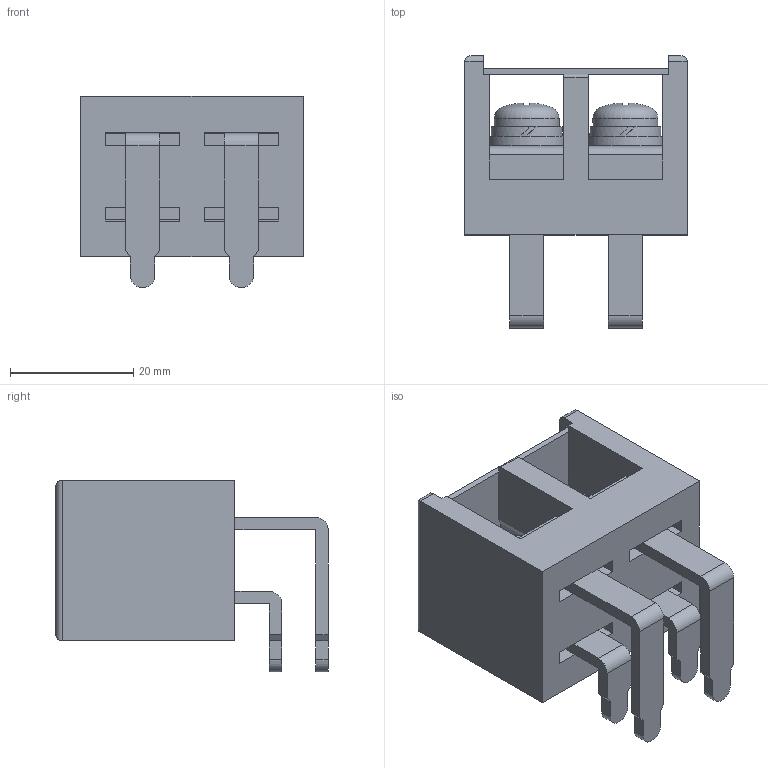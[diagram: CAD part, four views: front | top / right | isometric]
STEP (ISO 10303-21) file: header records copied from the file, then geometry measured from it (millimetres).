
FILE_DESCRIPTION(/* description */ ('Alibre Inc.'),/* implementation_level */ '2;1');
FILE_NAME(/* name */ 'export-ED434F66-DFDC-4765-9E7E-2E5ECDB81446',/* time_stamp */ '2025-01-30T13:59:15+09:00',/* author */ (''),/* organization */ (''),/* preprocessor_version */ 'ST-DEVELOPER v17',/* originating_system */ 'Alibre',/* authorisation */ '');
FILE_SCHEMA (('CONFIG_CONTROL_DESIGN'));
Length unit declared in the file: millimetre
Bounding box: 36 x 44.1 x 31 mm (x, y, z)
Volume: 18531 mm3; surface area: 11674 mm2
Topology: 1 solids, 2 shells, 544 faces, 1500 edges, 987 vertices
Faces by surface type: plane 345, bspline 150, cylinder 36, cone 9, torus 2, sphere 2
Full cylindrical faces by diameter (mm): 6 x1, 10.5 x2, 12.5 x1
Entity records: 16612 total; most frequent: CARTESIAN_POINT 4327, ORIENTED_EDGE 2980, DIRECTION 1628, EDGE_CURVE 1490, VECTOR 995, LINE 995, VERTEX_POINT 984, EDGE_LOOP 590
